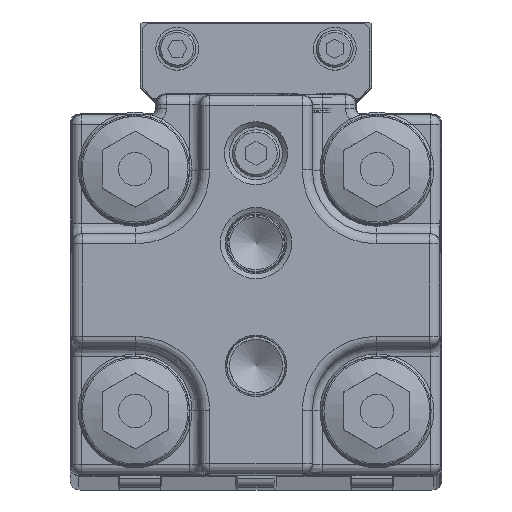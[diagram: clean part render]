
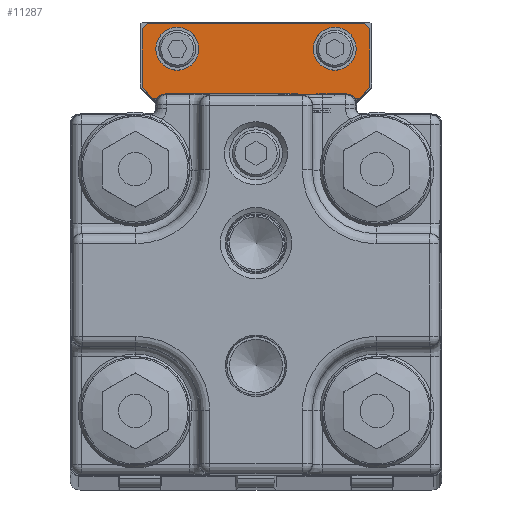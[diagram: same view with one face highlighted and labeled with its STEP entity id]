
A CAD part, top view. The second image highlights one B-rep face of the part: STEP entity #11287.
In plain terms, the highlighted planar face has unit normal (0, 0, 1).
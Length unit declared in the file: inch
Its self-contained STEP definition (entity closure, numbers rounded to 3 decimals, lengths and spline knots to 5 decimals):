
#14 = VERTEX_POINT ( 'NONE', #8869 ) ;
#903 = CARTESIAN_POINT ( 'NONE',  ( 0.66929, 1.42126, 2.51969 ) ) ;
#1989 = DIRECTION ( 'NONE',  ( 0., 0., -1. ) ) ;
#2425 = EDGE_CURVE ( 'NONE', #17378, #14665, #6234, .T. ) ;
#2579 = ORIENTED_EDGE ( 'NONE', *, *, #4354, .T. ) ;
#2636 = DIRECTION ( 'NONE',  ( 0., -1., 0. ) ) ;
#2707 = VECTOR ( 'NONE', #3083, 39.37008 ) ;
#2723 = VECTOR ( 'NONE', #9595, 39.37008 ) ;
#3063 = DIRECTION ( 'NONE',  ( 0., 0., 1. ) ) ;
#3083 = DIRECTION ( 'NONE',  ( -0.707, 0.707, 0. ) ) ;
#3208 = CARTESIAN_POINT ( 'NONE',  ( -0.66929, 1.01192, 2.51969 ) ) ;
#3492 = ORIENTED_EDGE ( 'NONE', *, *, #2425, .T. ) ;
#4051 = DIRECTION ( 'NONE',  ( 0.707, 0.707, 0. ) ) ;
#4312 = DIRECTION ( 'NONE',  ( -1., 0., 0. ) ) ;
#4354 = EDGE_CURVE ( 'NONE', #26457, #8112, #8632, .T. ) ;
#4382 = VERTEX_POINT ( 'NONE', #8492 ) ;
#4657 = CARTESIAN_POINT ( 'NONE',  ( 0.6064, 1.01192, 2.51969 ) ) ;
#4823 = CARTESIAN_POINT ( 'NONE',  ( 0.63976, 1.45079, 2.51969 ) ) ;
#5139 = ORIENTED_EDGE ( 'NONE', *, *, #10623, .F. ) ;
#5245 = DIRECTION ( 'NONE',  ( 0., 0., 1. ) ) ;
#5880 = ORIENTED_EDGE ( 'NONE', *, *, #14894, .T. ) ;
#6176 = CARTESIAN_POINT ( 'NONE',  ( -0.66929, 1.42126, 2.51969 ) ) ;
#6234 = LINE ( 'NONE', #15126, #26672 ) ;
#6627 = FACE_BOUND ( 'NONE', #15293, .T. ) ;
#7044 = FACE_BOUND ( 'NONE', #19341, .T. ) ;
#7613 = CIRCLE ( 'NONE', #21144, 0.12598 ) ;
#7709 = LINE ( 'NONE', #16610, #22733 ) ;
#8112 = VERTEX_POINT ( 'NONE', #6176 ) ;
#8430 = CIRCLE ( 'NONE', #11216, 0.12598 ) ;
#8492 = CARTESIAN_POINT ( 'NONE',  ( -0.6064, 1.01192, 2.51969 ) ) ;
#8590 = VERTEX_POINT ( 'NONE', #4823 ) ;
#8632 = LINE ( 'NONE', #15064, #26254 ) ;
#8869 = CARTESIAN_POINT ( 'NONE',  ( 0.58858, 1.30315, 2.51969 ) ) ;
#9229 = PLANE ( 'NONE',  #23848 ) ;
#9595 = DIRECTION ( 'NONE',  ( -1., 0., 0. ) ) ;
#10623 = EDGE_CURVE ( 'NONE', #24096, #24096, #8430, .T. ) ;
#11216 = AXIS2_PLACEMENT_3D ( 'NONE', #18941, #5245, #12363 ) ;
#11287 = ADVANCED_FACE ( 'NONE', ( #6627, #7044, #19765 ), #9229, .F. ) ;
#11734 = CARTESIAN_POINT ( 'NONE',  ( 0.66929, 1.01192, 2.51969 ) ) ;
#12234 = DIRECTION ( 'NONE',  ( -1., 0., 0. ) ) ;
#12363 = DIRECTION ( 'NONE',  ( 1., 0., 0. ) ) ;
#12732 = DIRECTION ( 'NONE',  ( -0.707, -0.707, 0. ) ) ;
#12849 = CARTESIAN_POINT ( 'NONE',  ( -0.33661, 1.30315, 2.51969 ) ) ;
#13389 = ORIENTED_EDGE ( 'NONE', *, *, #16165, .T. ) ;
#13911 = LINE ( 'NONE', #11734, #24437 ) ;
#14665 = VERTEX_POINT ( 'NONE', #23652 ) ;
#14894 = EDGE_CURVE ( 'NONE', #8112, #15949, #22611, .T. ) ;
#15064 = CARTESIAN_POINT ( 'NONE',  ( -0.63976, 1.45079, 2.51969 ) ) ;
#15126 = CARTESIAN_POINT ( 'NONE',  ( 0.63785, 1.04336, 2.51969 ) ) ;
#15133 = ORIENTED_EDGE ( 'NONE', *, *, #28048, .T. ) ;
#15293 = EDGE_LOOP ( 'NONE', ( #5139 ) ) ;
#15781 = ORIENTED_EDGE ( 'NONE', *, *, #18686, .F. ) ;
#15949 = VERTEX_POINT ( 'NONE', #24691 ) ;
#16165 = EDGE_CURVE ( 'NONE', #15949, #4382, #18988, .T. ) ;
#16610 = CARTESIAN_POINT ( 'NONE',  ( 0.66929, 1.45079, 2.51969 ) ) ;
#16738 = EDGE_CURVE ( 'NONE', #21876, #14665, #13911, .T. ) ;
#17135 = ORIENTED_EDGE ( 'NONE', *, *, #16738, .F. ) ;
#17378 = VERTEX_POINT ( 'NONE', #4657 ) ;
#17786 = EDGE_LOOP ( 'NONE', ( #15133, #2579, #5880, #13389, #15781, #3492, #17135, #22445 ) ) ;
#18297 = EDGE_CURVE ( 'NONE', #21876, #8590, #18973, .T. ) ;
#18686 = EDGE_CURVE ( 'NONE', #17378, #4382, #19086, .T. ) ;
#18941 = CARTESIAN_POINT ( 'NONE',  ( -0.4626, 1.30315, 2.51969 ) ) ;
#18973 = LINE ( 'NONE', #903, #2707 ) ;
#18988 = LINE ( 'NONE', #23659, #28611 ) ;
#19086 = LINE ( 'NONE', #27991, #2723 ) ;
#19341 = EDGE_LOOP ( 'NONE', ( #23713 ) ) ;
#19765 = FACE_OUTER_BOUND ( 'NONE', #17786, .T. ) ;
#20340 = CARTESIAN_POINT ( 'NONE',  ( 0.66929, 1.42126, 2.51969 ) ) ;
#20410 = VECTOR ( 'NONE', #2636, 39.37008 ) ;
#21144 = AXIS2_PLACEMENT_3D ( 'NONE', #24941, #3063, #27562 ) ;
#21175 = CARTESIAN_POINT ( 'NONE',  ( -0.63976, 1.45079, 2.51969 ) ) ;
#21876 = VERTEX_POINT ( 'NONE', #20340 ) ;
#21960 = CARTESIAN_POINT ( 'NONE',  ( 0.66929, 1.01192, 2.51969 ) ) ;
#22445 = ORIENTED_EDGE ( 'NONE', *, *, #18297, .T. ) ;
#22611 = LINE ( 'NONE', #3208, #20410 ) ;
#22685 = DIRECTION ( 'NONE',  ( 0., -1., 0. ) ) ;
#22733 = VECTOR ( 'NONE', #12234, 39.37008 ) ;
#23652 = CARTESIAN_POINT ( 'NONE',  ( 0.66929, 1.0748, 2.51969 ) ) ;
#23659 = CARTESIAN_POINT ( 'NONE',  ( 0.03144, 0.37407, 2.51969 ) ) ;
#23713 = ORIENTED_EDGE ( 'NONE', *, *, #25814, .F. ) ;
#23848 = AXIS2_PLACEMENT_3D ( 'NONE', #21960, #1989, #4312 ) ;
#24096 = VERTEX_POINT ( 'NONE', #12849 ) ;
#24437 = VECTOR ( 'NONE', #22685, 39.37008 ) ;
#24691 = CARTESIAN_POINT ( 'NONE',  ( -0.66929, 1.0748, 2.51969 ) ) ;
#24941 = CARTESIAN_POINT ( 'NONE',  ( 0.4626, 1.30315, 2.51969 ) ) ;
#25814 = EDGE_CURVE ( 'NONE', #14, #14, #7613, .T. ) ;
#26254 = VECTOR ( 'NONE', #12732, 39.37008 ) ;
#26457 = VERTEX_POINT ( 'NONE', #21175 ) ;
#26672 = VECTOR ( 'NONE', #4051, 39.37008 ) ;
#27562 = DIRECTION ( 'NONE',  ( 1., 0., 0. ) ) ;
#27613 = DIRECTION ( 'NONE',  ( 0.707, -0.707, 0. ) ) ;
#27991 = CARTESIAN_POINT ( 'NONE',  ( 0.66929, 1.01192, 2.51969 ) ) ;
#28048 = EDGE_CURVE ( 'NONE', #8590, #26457, #7709, .T. ) ;
#28611 = VECTOR ( 'NONE', #27613, 39.37008 ) ;
